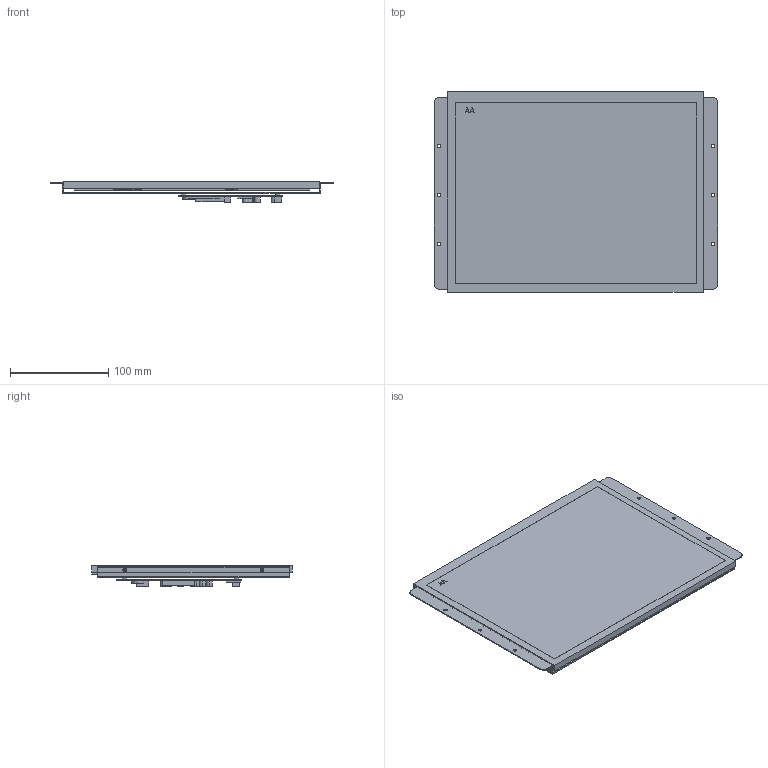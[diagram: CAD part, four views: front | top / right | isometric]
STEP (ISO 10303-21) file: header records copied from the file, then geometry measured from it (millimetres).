
FILE_DESCRIPTION((''),'2;1');
FILE_NAME('DMG10768K121-03W_ASM','2023-03-21T',('Administrator'),(''),'PRO/ENGINEER BY PARAMETRIC TECHNOLOGY CORPORATION, 2014320','PRO/ENGINEER BY PARAMETRIC TECHNOLOGY CORPORATION, 2014320','');
FILE_SCHEMA(('CONFIG_CONTROL_DESIGN','SHAPE_APPEARANCE_LAYERS_GROUPS'));
Length unit declared in the file: millimetre
Products named in the file (4): EV121X0M-N10; TK121006; PCB; DMG10768K121-03W_ASM
Assembly tree (3 placements, depth 2):
  DMG10768K121-03W_ASM
    EV121X0M-N10
    TK121006
    PCB
Bounding box: 289.2 x 204 x 21.3 mm (x, y, z)
Volume: 425899.3 mm3; surface area: 298660.5 mm2
Topology: 3 solids, 3 shells, 216 faces, 544 edges, 362 vertices
Faces by surface type: plane 136, cylinder 80
Entity records: 7375 total; most frequent: DIRECTION 1146, CARTESIAN_POINT 1143, ORIENTED_EDGE 1088, EDGE_CURVE 544, AXIS2_PLACEMENT_3D 383, VECTOR 380, LINE 380, VERTEX_POINT 362
